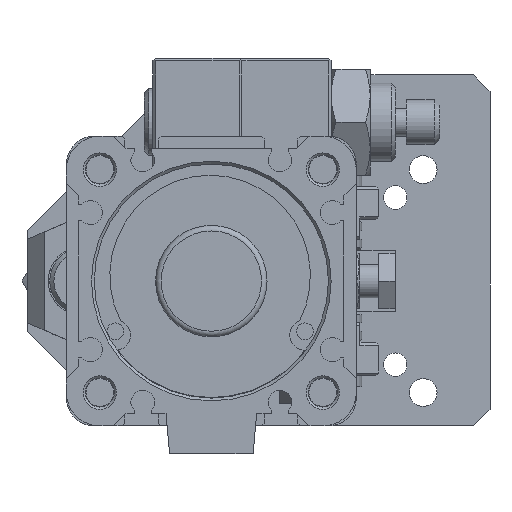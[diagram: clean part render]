
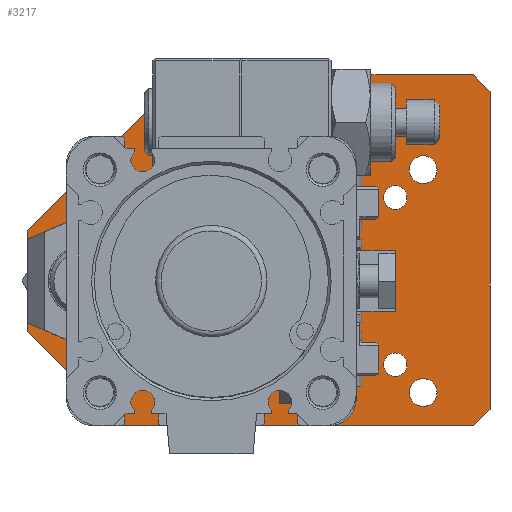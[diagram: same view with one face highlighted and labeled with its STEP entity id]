
A CAD part, front view. The second image highlights one B-rep face of the part: STEP entity #3217.
In plain terms, the highlighted planar face has unit normal (0, -1, 0).
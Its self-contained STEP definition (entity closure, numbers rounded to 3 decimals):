
#320=LINE('',#20154,#1226);
#321=LINE('',#20157,#1227);
#322=LINE('',#20159,#1228);
#323=LINE('',#20161,#1229);
#324=LINE('',#20163,#1230);
#325=LINE('',#20165,#1231);
#326=LINE('',#20167,#1232);
#327=LINE('',#20169,#1233);
#1226=VECTOR('',#15855,1.);
#1227=VECTOR('',#15856,1.);
#1228=VECTOR('',#15857,1.);
#1229=VECTOR('',#15858,1.);
#1230=VECTOR('',#15859,1.);
#1231=VECTOR('',#15860,1.);
#1232=VECTOR('',#15861,1.);
#1233=VECTOR('',#15862,1.);
#3217=ADVANCED_FACE('',(#4653,#4654,#4655,#4656,#4657,#4658,#4659,#4660,
#4661,#4662,#4663,#4664,#4665,#4666),#4122,.F.);
#4122=PLANE('',#14143);
#4653=FACE_BOUND('',#5453,.T.);
#4654=FACE_BOUND('',#5454,.T.);
#4655=FACE_BOUND('',#5455,.T.);
#4656=FACE_BOUND('',#5456,.T.);
#4657=FACE_BOUND('',#5457,.T.);
#4658=FACE_BOUND('',#5458,.T.);
#4659=FACE_BOUND('',#5459,.T.);
#4660=FACE_BOUND('',#5460,.T.);
#4661=FACE_BOUND('',#5461,.T.);
#4662=FACE_BOUND('',#5462,.T.);
#4663=FACE_BOUND('',#5463,.T.);
#4664=FACE_BOUND('',#5464,.T.);
#4665=FACE_BOUND('',#5465,.T.);
#4666=FACE_BOUND('',#5466,.T.);
#5453=EDGE_LOOP('',(#6825,#6826,#6827,#6828,#6829,#6830,#6831,#6832));
#5454=EDGE_LOOP('',(#6833));
#5455=EDGE_LOOP('',(#6834));
#5456=EDGE_LOOP('',(#6835));
#5457=EDGE_LOOP('',(#6836));
#5458=EDGE_LOOP('',(#6837));
#5459=EDGE_LOOP('',(#6838));
#5460=EDGE_LOOP('',(#6839));
#5461=EDGE_LOOP('',(#6840));
#5462=EDGE_LOOP('',(#6841));
#5463=EDGE_LOOP('',(#6842));
#5464=EDGE_LOOP('',(#6843));
#5465=EDGE_LOOP('',(#6844));
#5466=EDGE_LOOP('',(#6845));
#6825=ORIENTED_EDGE('',*,*,#11637,.F.);
#6826=ORIENTED_EDGE('',*,*,#11638,.F.);
#6827=ORIENTED_EDGE('',*,*,#11639,.F.);
#6828=ORIENTED_EDGE('',*,*,#11640,.F.);
#6829=ORIENTED_EDGE('',*,*,#11641,.F.);
#6830=ORIENTED_EDGE('',*,*,#11642,.T.);
#6831=ORIENTED_EDGE('',*,*,#11643,.F.);
#6832=ORIENTED_EDGE('',*,*,#11644,.T.);
#6833=ORIENTED_EDGE('',*,*,#11645,.F.);
#6834=ORIENTED_EDGE('',*,*,#11636,.F.);
#6835=ORIENTED_EDGE('',*,*,#11646,.F.);
#6836=ORIENTED_EDGE('',*,*,#11647,.F.);
#6837=ORIENTED_EDGE('',*,*,#11648,.F.);
#6838=ORIENTED_EDGE('',*,*,#11649,.F.);
#6839=ORIENTED_EDGE('',*,*,#11650,.F.);
#6840=ORIENTED_EDGE('',*,*,#11651,.F.);
#6841=ORIENTED_EDGE('',*,*,#11652,.F.);
#6842=ORIENTED_EDGE('',*,*,#11653,.F.);
#6843=ORIENTED_EDGE('',*,*,#11654,.F.);
#6844=ORIENTED_EDGE('',*,*,#11655,.F.);
#6845=ORIENTED_EDGE('',*,*,#11656,.F.);
#10344=VERTEX_POINT('',#20152);
#10345=VERTEX_POINT('',#20155);
#10346=VERTEX_POINT('',#20156);
#10347=VERTEX_POINT('',#20158);
#10348=VERTEX_POINT('',#20160);
#10349=VERTEX_POINT('',#20162);
#10350=VERTEX_POINT('',#20164);
#10351=VERTEX_POINT('',#20166);
#10352=VERTEX_POINT('',#20168);
#10353=VERTEX_POINT('',#20171);
#10354=VERTEX_POINT('',#20173);
#10355=VERTEX_POINT('',#20175);
#10356=VERTEX_POINT('',#20177);
#10357=VERTEX_POINT('',#20179);
#10358=VERTEX_POINT('',#20181);
#10359=VERTEX_POINT('',#20183);
#10360=VERTEX_POINT('',#20185);
#10361=VERTEX_POINT('',#20187);
#10362=VERTEX_POINT('',#20189);
#10363=VERTEX_POINT('',#20191);
#10364=VERTEX_POINT('',#20193);
#11636=EDGE_CURVE('',#10344,#10344,#13391,.T.);
#11637=EDGE_CURVE('',#10345,#10346,#320,.T.);
#11638=EDGE_CURVE('',#10347,#10345,#321,.T.);
#11639=EDGE_CURVE('',#10348,#10347,#322,.T.);
#11640=EDGE_CURVE('',#10349,#10348,#323,.T.);
#11641=EDGE_CURVE('',#10350,#10349,#324,.T.);
#11642=EDGE_CURVE('',#10350,#10351,#325,.T.);
#11643=EDGE_CURVE('',#10352,#10351,#326,.T.);
#11644=EDGE_CURVE('',#10352,#10346,#327,.T.);
#11645=EDGE_CURVE('',#10353,#10353,#13392,.T.);
#11646=EDGE_CURVE('',#10354,#10354,#13393,.T.);
#11647=EDGE_CURVE('',#10355,#10355,#13394,.T.);
#11648=EDGE_CURVE('',#10356,#10356,#13395,.T.);
#11649=EDGE_CURVE('',#10357,#10357,#13396,.T.);
#11650=EDGE_CURVE('',#10358,#10358,#13397,.T.);
#11651=EDGE_CURVE('',#10359,#10359,#13398,.T.);
#11652=EDGE_CURVE('',#10360,#10360,#13399,.T.);
#11653=EDGE_CURVE('',#10361,#10361,#13400,.T.);
#11654=EDGE_CURVE('',#10362,#10362,#13401,.T.);
#11655=EDGE_CURVE('',#10363,#10363,#13402,.T.);
#11656=EDGE_CURVE('',#10364,#10364,#13403,.T.);
#13391=CIRCLE('',#14129,2.1);
#13392=CIRCLE('',#14131,2.5);
#13393=CIRCLE('',#14132,2.1);
#13394=CIRCLE('',#14133,2.1);
#13395=CIRCLE('',#14134,2.5);
#13396=CIRCLE('',#14135,2.5);
#13397=CIRCLE('',#14136,2.1);
#13398=CIRCLE('',#14137,2.1);
#13399=CIRCLE('',#14138,2.1);
#13400=CIRCLE('',#14139,2.1);
#13401=CIRCLE('',#14140,3.25);
#13402=CIRCLE('',#14141,3.25);
#13403=CIRCLE('',#14142,2.5);
#14129=AXIS2_PLACEMENT_3D('',#20151,#15851,#15852);
#14131=AXIS2_PLACEMENT_3D('',#20170,#15863,#15864);
#14132=AXIS2_PLACEMENT_3D('',#20172,#15865,#15866);
#14133=AXIS2_PLACEMENT_3D('',#20174,#15867,#15868);
#14134=AXIS2_PLACEMENT_3D('',#20176,#15869,#15870);
#14135=AXIS2_PLACEMENT_3D('',#20178,#15871,#15872);
#14136=AXIS2_PLACEMENT_3D('',#20180,#15873,#15874);
#14137=AXIS2_PLACEMENT_3D('',#20182,#15875,#15876);
#14138=AXIS2_PLACEMENT_3D('',#20184,#15877,#15878);
#14139=AXIS2_PLACEMENT_3D('',#20186,#15879,#15880);
#14140=AXIS2_PLACEMENT_3D('',#20188,#15881,#15882);
#14141=AXIS2_PLACEMENT_3D('',#20190,#15883,#15884);
#14142=AXIS2_PLACEMENT_3D('',#20192,#15885,#15886);
#14143=AXIS2_PLACEMENT_3D('',#20194,#15887,#15888);
#15851=DIRECTION('',(0.,-1.,0.));
#15852=DIRECTION('',(-1.,0.,0.));
#15855=DIRECTION('',(1.,0.,0.));
#15856=DIRECTION('',(0.707,0.,0.707));
#15857=DIRECTION('',(0.,0.,1.));
#15858=DIRECTION('',(-0.707,0.,0.707));
#15859=DIRECTION('',(-1.,0.,0.));
#15860=DIRECTION('',(0.707,0.,0.707));
#15861=DIRECTION('',(0.,0.,-1.));
#15862=DIRECTION('',(-0.707,0.,0.707));
#15863=DIRECTION('',(0.,-1.,0.));
#15864=DIRECTION('',(-1.,0.,0.));
#15865=DIRECTION('',(0.,-1.,0.));
#15866=DIRECTION('',(-1.,0.,0.));
#15867=DIRECTION('',(0.,-1.,0.));
#15868=DIRECTION('',(-1.,0.,0.));
#15869=DIRECTION('',(0.,-1.,0.));
#15870=DIRECTION('',(-1.,0.,0.));
#15871=DIRECTION('',(0.,-1.,0.));
#15872=DIRECTION('',(-1.,0.,0.));
#15873=DIRECTION('',(0.,-1.,0.));
#15874=DIRECTION('',(-1.,0.,0.));
#15875=DIRECTION('',(0.,-1.,0.));
#15876=DIRECTION('',(-1.,0.,0.));
#15877=DIRECTION('',(0.,-1.,0.));
#15878=DIRECTION('',(-1.,0.,0.));
#15879=DIRECTION('',(0.,-1.,0.));
#15880=DIRECTION('',(-1.,0.,0.));
#15881=DIRECTION('',(0.,-1.,0.));
#15882=DIRECTION('',(-1.,0.,0.));
#15883=DIRECTION('',(0.,-1.,0.));
#15884=DIRECTION('',(-1.,0.,0.));
#15885=DIRECTION('',(0.,-1.,0.));
#15886=DIRECTION('',(-1.,0.,0.));
#15887=DIRECTION('',(0.,1.,0.));
#15888=DIRECTION('',(-1.,0.,0.));
#20151=CARTESIAN_POINT('',(59.,129.5,-11.));
#20152=CARTESIAN_POINT('',(56.9,129.5,-11.));
#20154=CARTESIAN_POINT('',(21.,129.5,11.));
#20155=CARTESIAN_POINT('',(21.,129.5,11.));
#20156=CARTESIAN_POINT('',(73.,129.5,11.));
#20157=CARTESIAN_POINT('',(-7.,129.5,-17.));
#20158=CARTESIAN_POINT('',(-7.,129.5,-17.));
#20159=CARTESIAN_POINT('',(-7.,129.5,-35.));
#20160=CARTESIAN_POINT('',(-7.,129.5,-35.));
#20161=CARTESIAN_POINT('',(10.,129.5,-52.));
#20162=CARTESIAN_POINT('',(10.,129.5,-52.));
#20163=CARTESIAN_POINT('',(73.,129.5,-52.));
#20164=CARTESIAN_POINT('',(73.,129.5,-52.));
#20165=CARTESIAN_POINT('',(73.,129.5,-52.));
#20166=CARTESIAN_POINT('',(76.,129.5,-49.));
#20167=CARTESIAN_POINT('',(76.,129.5,8.));
#20168=CARTESIAN_POINT('',(76.,129.5,8.));
#20169=CARTESIAN_POINT('',(76.,129.5,8.));
#20170=CARTESIAN_POINT('',(24.,129.5,-6.));
#20171=CARTESIAN_POINT('',(21.5,129.5,-6.));
#20172=CARTESIAN_POINT('',(44.,129.5,-11.));
#20173=CARTESIAN_POINT('',(41.9,129.5,-11.));
#20174=CARTESIAN_POINT('',(29.,129.5,-11.));
#20175=CARTESIAN_POINT('',(26.9,129.5,-11.));
#20176=CARTESIAN_POINT('',(64.,129.5,-46.));
#20177=CARTESIAN_POINT('',(61.5,129.5,-46.));
#20178=CARTESIAN_POINT('',(24.,129.5,-46.));
#20179=CARTESIAN_POINT('',(21.5,129.5,-46.));
#20180=CARTESIAN_POINT('',(59.,129.5,-41.));
#20181=CARTESIAN_POINT('',(56.9,129.5,-41.));
#20182=CARTESIAN_POINT('',(44.,129.5,-41.));
#20183=CARTESIAN_POINT('',(41.9,129.5,-41.));
#20184=CARTESIAN_POINT('',(29.,129.5,-41.));
#20185=CARTESIAN_POINT('',(26.9,129.5,-41.));
#20186=CARTESIAN_POINT('',(44.,129.5,-26.));
#20187=CARTESIAN_POINT('',(41.9,129.5,-26.));
#20188=CARTESIAN_POINT('',(55.,129.5,-26.));
#20189=CARTESIAN_POINT('',(51.75,129.5,-26.));
#20190=CARTESIAN_POINT('',(33.,129.5,-26.));
#20191=CARTESIAN_POINT('',(29.75,129.5,-26.));
#20192=CARTESIAN_POINT('',(64.,129.5,-6.));
#20193=CARTESIAN_POINT('',(61.5,129.5,-6.));
#20194=CARTESIAN_POINT('',(76.,129.5,-26.));
